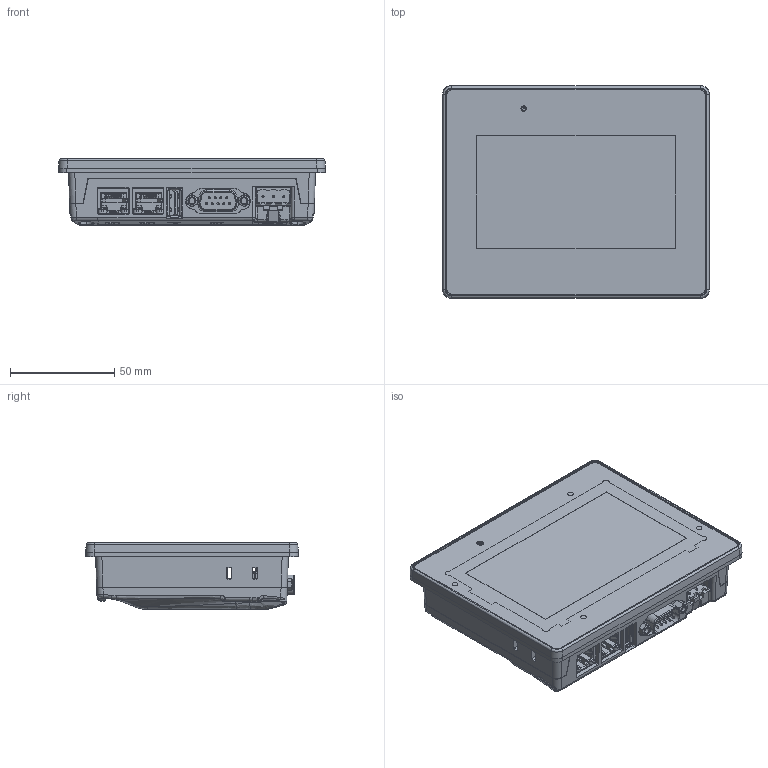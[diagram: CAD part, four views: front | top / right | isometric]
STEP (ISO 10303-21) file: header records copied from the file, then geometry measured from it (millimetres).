
FILE_DESCRIPTION (( 'STEP AP214' ), '1' );
FILE_NAME ('cMT2058XH.STEP', '2024-05-03T14:58:50', ( '' ), ( '' ), 'SwSTEP 2.0', 'SolidWorks 2019', '' );
FILE_SCHEMA (( 'AUTOMOTIVE_DESIGN' ));
Length unit declared in the file: inch
Products named in the file (26): P13046.STEP.STEP; FEF258X10_240125.STEP; 3046105600.STEP.STEP; D-SUB (M).STEP; J099110351-Y-G.STEP.STEP; L3046.STEP.STEP; S127A_04_V1.0 PCBA_230925.STEP; cMT2058XH.STEP; cMT2058X ____.STEP; 3046105600.STEP-1.STEP; 5EHDRC-XXP.STEP; S304611050.STEP.STEP; I3046.STEP.STEP; MI3046.STEP-1.STEP; J099110351-Y-G-1.STEP; FEB258X00_240125.STEP; J099110351-Y-G.STEP-1.STEP; L3046-2.STEP.STEP; cMT2058XH; DN6110V01.STEP; P23046-S.STEP.STEP; J099110351-Y-G.STEP; ______FEZ805P10-130515.STEP; M3046.STEP.STEP; FS103100T.STEP; MI3046.STEP.STEP
Assembly tree (47 placements, depth 8):
  cMT2058XH
    cMT2058XH.STEP
      S127A_04_V1.0 PCBA_230925.STEP
        J099110351-Y-G.STEP
          J099110351-Y-G.STEP.STEP
            3046105600.STEP.STEP
              MI3046.STEP.STEP
                M3046.STEP.STEP
                I3046.STEP.STEP
              L3046.STEP.STEP
              L3046-2.STEP.STEP
              P23046-S.STEP.STEP  x4
              P13046.STEP.STEP  x4
            S304611050.STEP.STEP
        J099110351-Y-G-1.STEP
          J099110351-Y-G.STEP-1.STEP
            3046105600.STEP-1.STEP
              MI3046.STEP-1.STEP
                M3046.STEP.STEP
                I3046.STEP.STEP
              L3046.STEP.STEP
              L3046-2.STEP.STEP
              P23046-S.STEP.STEP  x4
              P13046.STEP.STEP  x4
            S304611050.STEP.STEP
        DN6110V01.STEP
        5EHDRC-XXP.STEP
        D-SUB (M).STEP
      FEF258X10_240125.STEP
      ______FEZ805P10-130515.STEP
      cMT2058X ____.STEP
      FEB258X00_240125.STEP
      FS103100T.STEP  x4
Bounding box: 128 x 102 x 32 mm (x, y, z)
Volume: 84290.7 mm3; surface area: 113339.8 mm2
Topology: 43 solids, 43 shells, 4465 faces, 11784 edges, 7411 vertices
Faces by surface type: plane 2913, cylinder 739, bspline 425, cone 191, torus 169, sphere 28
Entity records: 121755 total; most frequent: CARTESIAN_POINT 44307, ORIENTED_EDGE 16776, DIRECTION 13587, EDGE_CURVE 8388, VERTEX_POINT 5383, LINE 5093, VECTOR 5093, AXIS2_PLACEMENT_3D 4247
